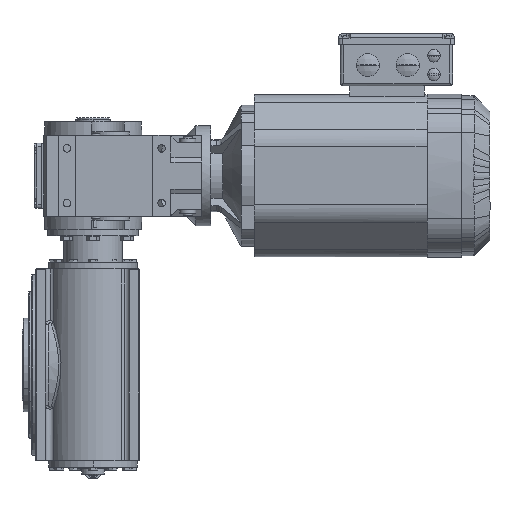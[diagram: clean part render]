
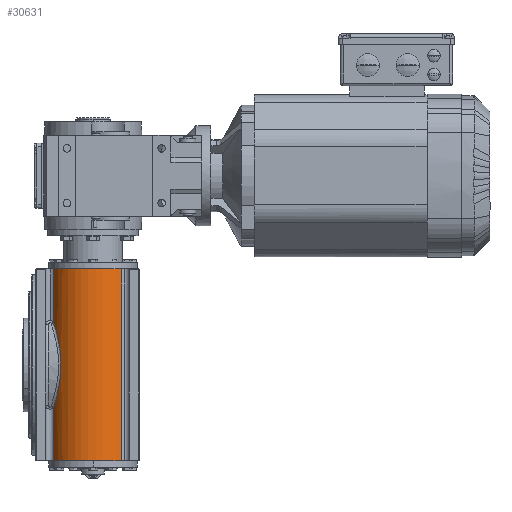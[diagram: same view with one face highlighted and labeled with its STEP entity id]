
A CAD part, left-side view. The second image highlights one B-rep face of the part: STEP entity #30631.
In plain terms, the highlighted cylindrical face has radius 71 mm (diameter 142 mm), a partial arc.
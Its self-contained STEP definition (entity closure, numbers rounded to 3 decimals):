
#4198 = CARTESIAN_POINT ( 'NONE',  ( -128.109, 136.808, 68.859 ) ) ;
#7021 = ORIENTED_EDGE ( 'NONE', *, *, #25045, .T. ) ;
#9840 = CARTESIAN_POINT ( 'NONE',  ( -135.5, 132.319, 51.157 ) ) ;
#10809 = CARTESIAN_POINT ( 'NONE',  ( -143.2, 126.132, 16.387 ) ) ;
#11827 = CARTESIAN_POINT ( 'NONE',  ( -130.725, 135.429, 63.555 ) ) ;
#11874 = ORIENTED_EDGE ( 'NONE', *, *, #67532, .F. ) ;
#12858 = CARTESIAN_POINT ( 'NONE',  ( -138.584, 130.076, -41.542 ) ) ;
#13340 = CARTESIAN_POINT ( 'NONE',  ( -142.199, 127.041, -24.119 ) ) ;
#13804 = CARTESIAN_POINT ( 'NONE',  ( -132.999, 134.023, -58.167 ) ) ;
#14206 = DIRECTION ( 'NONE',  ( 0., 0., 1. ) ) ;
#15155 = VERTEX_POINT ( 'NONE', #15424 ) ;
#15424 = CARTESIAN_POINT ( 'NONE',  ( -128.109, 136.808, 154. ) ) ;
#17640 = VECTOR ( 'NONE', #64199, 1000. ) ;
#19171 = LINE ( 'NONE', #72315, #17640 ) ;
#19859 = CARTESIAN_POINT ( 'NONE',  ( -128.109, 136.808, -154. ) ) ;
#20432 = CARTESIAN_POINT ( 'NONE',  ( -140.598, 128.429, -32.922 ) ) ;
#22355 = DIRECTION ( 'NONE',  ( 1., 0., 0. ) ) ;
#25045 = EDGE_CURVE ( 'NONE', #48423, #62064, #19171, .T. ) ;
#26105 = CARTESIAN_POINT ( 'NONE',  ( -138.57, 130.069, 41.275 ) ) ;
#26381 = B_SPLINE_CURVE_WITH_KNOTS ( 'NONE', 3,
 ( #4198, #11827, #33598, #9840, #64463, #40676, #95472, #26105, #42656, #56879, #35081, #10809, #71586, #41641, #89336, #96986, #35600, #82252, #28084, #43651, #58894, #13340, #66506, #99012, #20432, #12858, #82759, #13804, #83232, #89841 ),
 .UNSPECIFIED., .F., .F.,
 ( 4, 2, 2, 2, 2, 2, 2, 2, 2, 2, 2, 2, 2, 2, 4 ),
 ( 0., 0.018, 0.023, 0.027, 0.036, 0.055, 0.059, 0.064, 0.073, 0.091, 0.095, 0.1, 0.109, 0.127, 0.145 ),
 .UNSPECIFIED. ) ;
#26445 = AXIS2_PLACEMENT_3D ( 'NONE', #77085, #56719, #79094 ) ;
#28084 = CARTESIAN_POINT ( 'NONE',  ( -143.692, 125.681, -12.164 ) ) ;
#30631 = ADVANCED_FACE ( 'NONE', ( #93820 ), #53723, .T. ) ;
#33487 = ORIENTED_EDGE ( 'NONE', *, *, #61081, .F. ) ;
#33598 = CARTESIAN_POINT ( 'NONE',  ( -133.018, 134.012, 58.125 ) ) ;
#34069 = ORIENTED_EDGE ( 'NONE', *, *, #96576, .T. ) ;
#35081 = CARTESIAN_POINT ( 'NONE',  ( -142.345, 126.918, 23.884 ) ) ;
#35502 = CARTESIAN_POINT ( 'NONE',  ( -95., 74., 154. ) ) ;
#35600 = CARTESIAN_POINT ( 'NONE',  ( -144.049, 125.334, 2.839 ) ) ;
#36587 = CARTESIAN_POINT ( 'NONE',  ( -128.109, 136.808, 68.859 ) ) ;
#40216 = ORIENTED_EDGE ( 'NONE', *, *, #40830, .T. ) ;
#40676 = CARTESIAN_POINT ( 'NONE',  ( -136.889, 131.329, 46.942 ) ) ;
#40830 = EDGE_CURVE ( 'NONE', #69747, #51899, #77289, .T. ) ;
#41641 = CARTESIAN_POINT ( 'NONE',  ( -143.607, 125.753, 11.865 ) ) ;
#42656 = CARTESIAN_POINT ( 'NONE',  ( -139.32, 129.475, 38.415 ) ) ;
#43651 = CARTESIAN_POINT ( 'NONE',  ( -142.826, 126.476, -19.641 ) ) ;
#44974 = ORIENTED_EDGE ( 'NONE', *, *, #58220, .T. ) ;
#45968 = VECTOR ( 'NONE', #75109, 1000. ) ;
#48423 = VERTEX_POINT ( 'NONE', #63829 ) ;
#48980 = CIRCLE ( 'NONE', #73370, 71. ) ;
#49167 = VERTEX_POINT ( 'NONE', #36587 ) ;
#50603 = DIRECTION ( 'NONE',  ( 1., 0., 0. ) ) ;
#51899 = VERTEX_POINT ( 'NONE', #77901 ) ;
#53723 = CYLINDRICAL_SURFACE ( 'NONE', #26445, 71. ) ;
#55936 = EDGE_LOOP ( 'NONE', ( #33487, #44974, #7021, #34069, #40216, #11874 ) ) ;
#56719 = DIRECTION ( 'NONE',  ( 0., 0., 1. ) ) ;
#56879 = CARTESIAN_POINT ( 'NONE',  ( -141.327, 127.831, 29.758 ) ) ;
#56911 = CARTESIAN_POINT ( 'NONE',  ( -148.721, 27.577, -154. ) ) ;
#58220 = EDGE_CURVE ( 'NONE', #49167, #48423, #26381, .T. ) ;
#58894 = CARTESIAN_POINT ( 'NONE',  ( -142.631, 126.653, -21.138 ) ) ;
#60794 = CIRCLE ( 'NONE', #86625, 71. ) ;
#61081 = EDGE_CURVE ( 'NONE', #49167, #15155, #67984, .T. ) ;
#62064 = VERTEX_POINT ( 'NONE', #19859 ) ;
#63829 = CARTESIAN_POINT ( 'NONE',  ( -128.109, 136.808, -68.859 ) ) ;
#64199 = DIRECTION ( 'NONE',  ( 0., 0., -1. ) ) ;
#64463 = CARTESIAN_POINT ( 'NONE',  ( -135.977, 131.984, 49.755 ) ) ;
#66506 = CARTESIAN_POINT ( 'NONE',  ( -141.962, 127.251, -25.6 ) ) ;
#67532 = EDGE_CURVE ( 'NONE', #15155, #51899, #60794, .T. ) ;
#67984 = LINE ( 'NONE', #75616, #45968 ) ;
#69747 = VERTEX_POINT ( 'NONE', #89308 ) ;
#71586 = CARTESIAN_POINT ( 'NONE',  ( -143.351, 125.993, 14.878 ) ) ;
#72315 = CARTESIAN_POINT ( 'NONE',  ( -128.109, 136.808, 500000. ) ) ;
#73370 = AXIS2_PLACEMENT_3D ( 'NONE', #83612, #14206, #22355 ) ;
#75109 = DIRECTION ( 'NONE',  ( 0., 0., 1. ) ) ;
#75616 = CARTESIAN_POINT ( 'NONE',  ( -128.109, 136.808, -500000. ) ) ;
#77085 = CARTESIAN_POINT ( 'NONE',  ( -95., 74., -154. ) ) ;
#77289 = LINE ( 'NONE', #56911, #89167 ) ;
#77901 = CARTESIAN_POINT ( 'NONE',  ( -148.721, 27.577, 154. ) ) ;
#79094 = DIRECTION ( 'NONE',  ( 1., 0., 0. ) ) ;
#82252 = CARTESIAN_POINT ( 'NONE',  ( -144.04, 125.343, -6.17 ) ) ;
#82759 = CARTESIAN_POINT ( 'NONE',  ( -136.93, 131.346, -47.157 ) ) ;
#83232 = CARTESIAN_POINT ( 'NONE',  ( -130.722, 135.43, -63.561 ) ) ;
#83612 = CARTESIAN_POINT ( 'NONE',  ( -95., 74., -154. ) ) ;
#86625 = AXIS2_PLACEMENT_3D ( 'NONE', #35502, #96892, #50603 ) ;
#87403 = DIRECTION ( 'NONE',  ( 0., 0., 1. ) ) ;
#89167 = VECTOR ( 'NONE', #87403, 1000. ) ;
#89308 = CARTESIAN_POINT ( 'NONE',  ( -148.721, 27.577, -154. ) ) ;
#89336 = CARTESIAN_POINT ( 'NONE',  ( -143.713, 125.653, 10.36 ) ) ;
#89841 = CARTESIAN_POINT ( 'NONE',  ( -128.109, 136.808, -68.859 ) ) ;
#93820 = FACE_OUTER_BOUND ( 'NONE', #55936, .T. ) ;
#95472 = CARTESIAN_POINT ( 'NONE',  ( -137.325, 131.008, 45.529 ) ) ;
#96576 = EDGE_CURVE ( 'NONE', #62064, #69747, #48980, .T. ) ;
#96892 = DIRECTION ( 'NONE',  ( 0., 0., 1. ) ) ;
#96986 = CARTESIAN_POINT ( 'NONE',  ( -143.967, 125.413, 5.846 ) ) ;
#99012 = CARTESIAN_POINT ( 'NONE',  ( -141.192, 127.924, -30.015 ) ) ;
